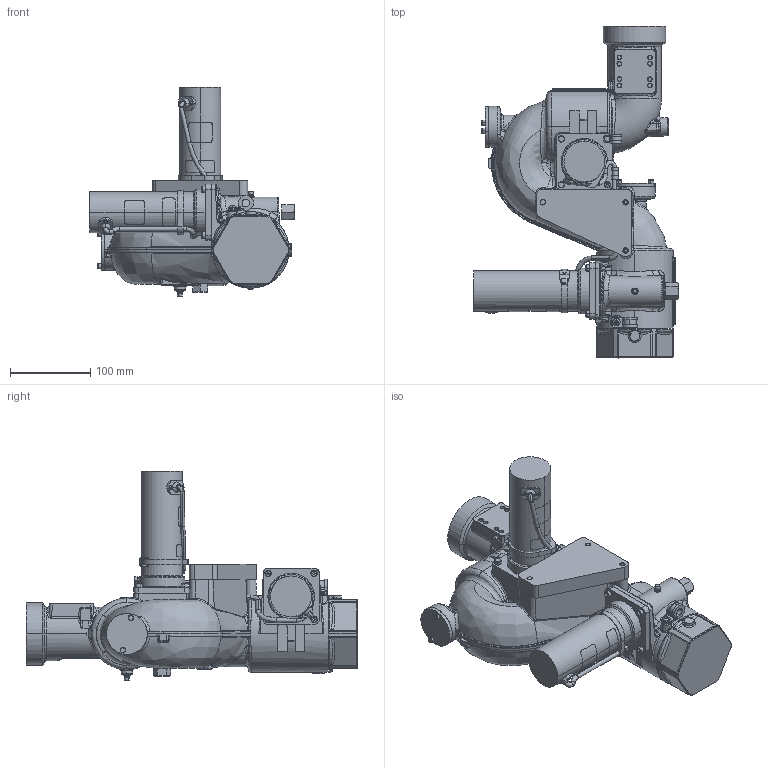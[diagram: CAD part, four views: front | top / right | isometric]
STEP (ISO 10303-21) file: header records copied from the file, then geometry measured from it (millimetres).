
FILE_DESCRIPTION (( 'STEP AP203' ), '1' );
FILE_NAME ('Nitro HD Monitor.STEP', '2017-08-24T16:11:04', ( 'eb' ), ( '' ), 'SwSTEP 2.0', 'SolidWorks 2017', '' );
FILE_SCHEMA (( 'CONFIG_CONTROL_DESIGN' ));
Products named in the file (1): Nitro HD Monitor
Bounding box: 254.89 x 413.08 x 260.6 mm (x, y, z)
Volume: 5174107.2 mm3; surface area: 422026.5 mm2
Topology: 39 solids, 39 shells, 3247 faces, 8559 edges, 5421 vertices
Faces by surface type: plane 1619, cylinder 796, bspline 475, cone 202, torus 120, sphere 35
Entity records: 145276 total; most frequent: CARTESIAN_POINT 70683, ORIENTED_EDGE 17022, DIRECTION 13670, EDGE_CURVE 8511, VERTEX_POINT 5421, LINE 5022, VECTOR 5022, AXIS2_PLACEMENT_3D 4324
